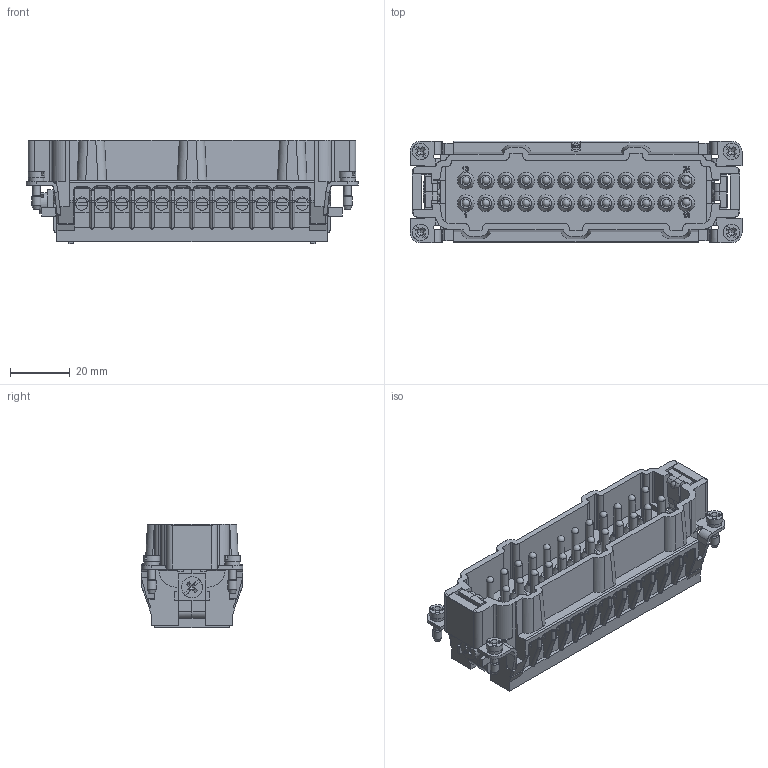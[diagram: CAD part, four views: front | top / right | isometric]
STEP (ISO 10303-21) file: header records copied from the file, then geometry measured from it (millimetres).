
FILE_DESCRIPTION(/* description */ (''),/* implementation_level */ '2;1');
FILE_NAME(/* name */ '100204883ugm000_c.stp',/* time_stamp */ '2022-03-11T17:31:33+01:00',/* author */ (''),/* organization */ (''),/* preprocessor_version */ 'ST-DEVELOPER v16.7',/* originating_system */ 'SIEMENS PLM Software NX 1911',/* authorisation */ '');
FILE_SCHEMA (('AUTOMOTIVE_DESIGN { 1 0 10303 214 3 1 1 1 }'));
Products named in the file (1): 100204883ugm000_c
Bounding box: 111 x 34 x 34.74 mm (x, y, z)
Volume: 52636.7 mm3; surface area: 34786.8 mm2
Topology: 1 solids, 13 shells, 3069 faces, 8880 edges, 6066 vertices
Faces by surface type: plane 1527, cylinder 811, extrusion 332, bspline 290, cone 81, sphere 28
Full cylindrical faces by diameter (mm): 0.295 x1, 0.326 x1, 0.6 x2, 2.5 x28, 2.8 x24, 3 x4, 4 x23, 5 x4, 5.5 x4, 7 x1
Entity records: 134837 total; most frequent: CARTESIAN_POINT 38375, ORIENTED_EDGE 16522, DIRECTION 13354, EDGE_CURVE 8261, VERTEX_POINT 5499, VECTOR 4780, LINE 4448, AXIS2_PLACEMENT_3D 4287
